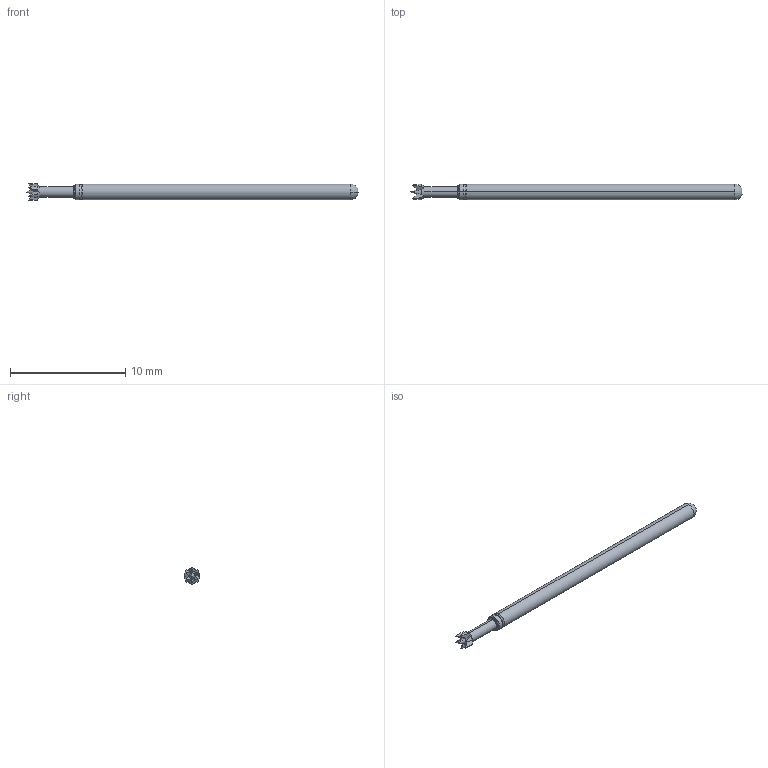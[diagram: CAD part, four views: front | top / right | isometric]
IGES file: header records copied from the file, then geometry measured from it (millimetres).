
Start section: SolidWorks IGES file using analytic representation for surfaces
Global section: file name: Z:\probe solid model mockups\Solidworks models\POGO-25 IGS files\POGO-25V RECD.IGS; native system: SolidWorks 2006 by SolidWorks Corporation; preprocessor: SolidWorks 2006 by SolidWorks Corporation; author: tsakatani; date: 071214.093719; units: inch
Bounding box: 28.78 x 1.37 x 1.4 mm (x, y, z)
Surface area: 121.6 mm2 (no closed solid volume)
Topology: 0 solids, 0 shells, 43 faces, 274 edges, 272 vertices
Faces by surface type: revolution 25, bspline 18
